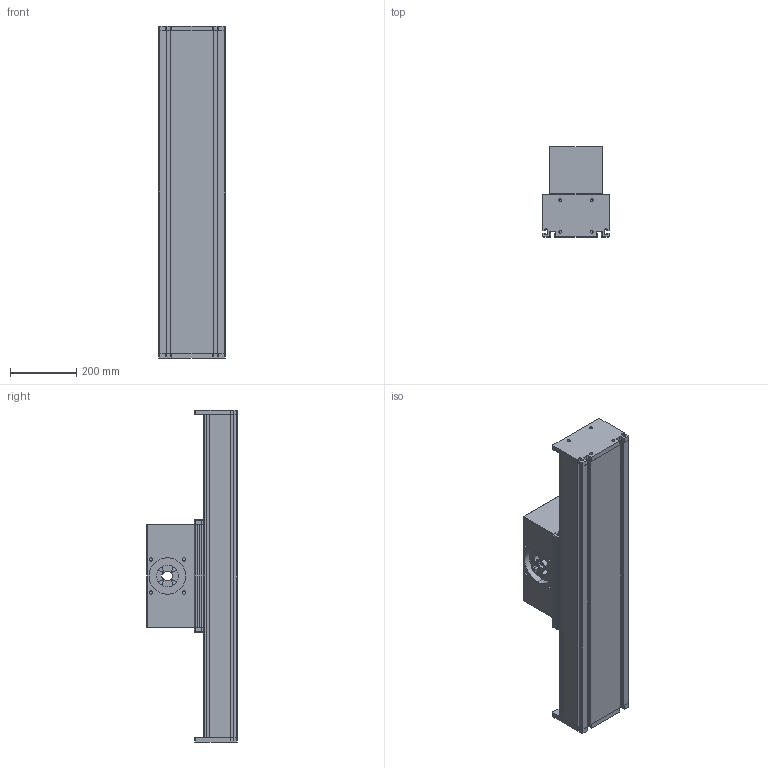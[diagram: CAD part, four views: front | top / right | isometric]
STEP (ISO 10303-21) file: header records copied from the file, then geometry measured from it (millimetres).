
FILE_DESCRIPTION (( 'STEP AP214' ), '1' );
FILE_NAME ('DLSZ200.STEP', '2023-09-12T11:49:06', ( '' ), ( '' ), 'SwSTEP 2.0', 'SolidWorks 2020', '' );
FILE_SCHEMA (( 'AUTOMOTIVE_DESIGN' ));
Length unit declared in the file: millimetre
Products named in the file (5): profile^DLSZ200_standard; end plate^DLSZ200_0; DLSZ200; timing belt reverse unit^DLSZ200_coupling claw pos.2; carriage^DLSZ200_carriage version 0
Assembly tree (5 placements, depth 2):
  DLSZ200
    profile^DLSZ200_standard
    carriage^DLSZ200_carriage version 0
    timing belt reverse unit^DLSZ200_coupling claw pos.2
    end plate^DLSZ200_0  x2
Bounding box: 200 x 272 x 1000 mm (x, y, z)
Volume: 18654677.7 mm3; surface area: 2417695.6 mm2
Topology: 9 solids, 9 shells, 402 faces, 1088 edges, 712 vertices
Faces by surface type: plane 265, cylinder 125, torus 8, sphere 4
Entity records: 11762 total; most frequent: CARTESIAN_POINT 1976, ORIENTED_EDGE 1928, DIRECTION 1914, EDGE_CURVE 964, LINE 742, VECTOR 742, VERTEX_POINT 632, AXIS2_PLACEMENT_3D 586
